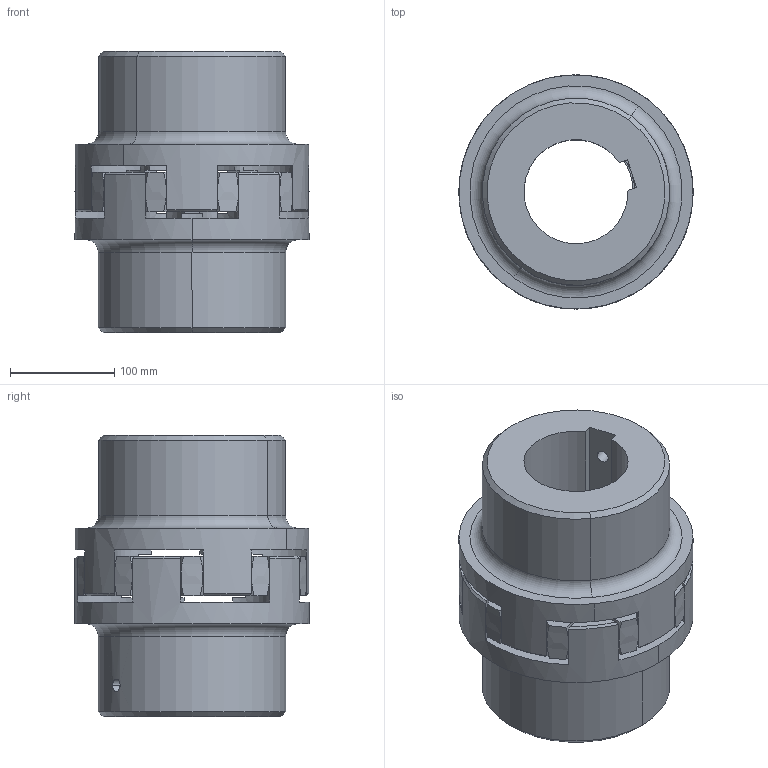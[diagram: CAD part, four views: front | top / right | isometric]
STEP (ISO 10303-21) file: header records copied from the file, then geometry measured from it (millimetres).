
FILE_DESCRIPTION (( 'STEP AP214' ), '1' );
FILE_NAME ('Sprzêg³o Rotex 100-110.STEP', '2026-06-01T07:56:29', ( '' ), ( '' ), 'SwSTEP 2.0', 'SolidWorks 2022', '' );
FILE_SCHEMA (( 'AUTOMOTIVE_DESIGN' ));
Length unit declared in the file: millimetre
Products named in the file (4): 021004001000_S214.stp; 021001000045_S214.stp; Sprz璕這 Rotex 100-110; 021004001100_S214.stp
Assembly tree (3 placements, depth 2):
  Sprz璕這 Rotex 100-110
    021004001100_S214.stp
    021004001000_S214.stp
    021001000045_S214.stp
Bounding box: 225 x 225 x 270 mm (x, y, z)
Volume: 5404828 mm3; surface area: 492895.9 mm2
Topology: 3 solids, 3 shells, 152 faces, 424 edges, 280 vertices
Faces by surface type: cylinder 60, bspline 40, plane 34, cone 14, torus 4
Entity records: 7421 total; most frequent: CARTESIAN_POINT 3565, ORIENTED_EDGE 848, DIRECTION 714, EDGE_CURVE 424, AXIS2_PLACEMENT_3D 316, VERTEX_POINT 280, CIRCLE 198, EDGE_LOOP 164
